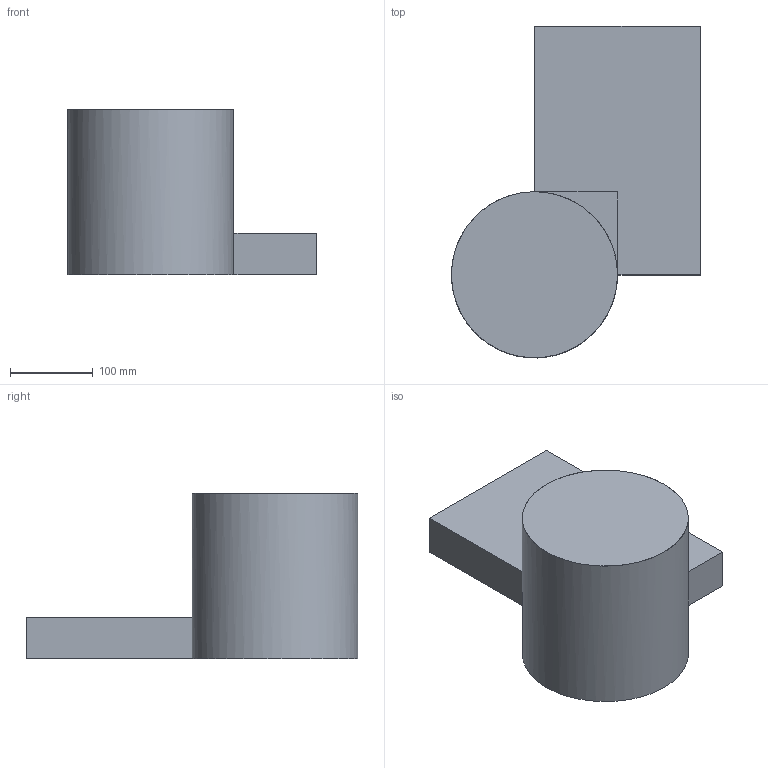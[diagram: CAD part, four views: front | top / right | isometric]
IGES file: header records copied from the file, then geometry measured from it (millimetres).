
Global section: file name: Filename.iges; native system: MATRA-DATAVISION CASCADE OL 3.0; preprocessor: CASCADE IGES processor V3.0; author: det; date: 20001129.140331; units: millimetre
Bounding box: 299.95 x 399.98 x 200 mm (x, y, z)
Surface area: 418495.6 mm2 (no closed solid volume)
Topology: 0 solids, 0 shells, 15 faces, 54 edges, 52 vertices
Faces by surface type: bspline 14, revolution 1
